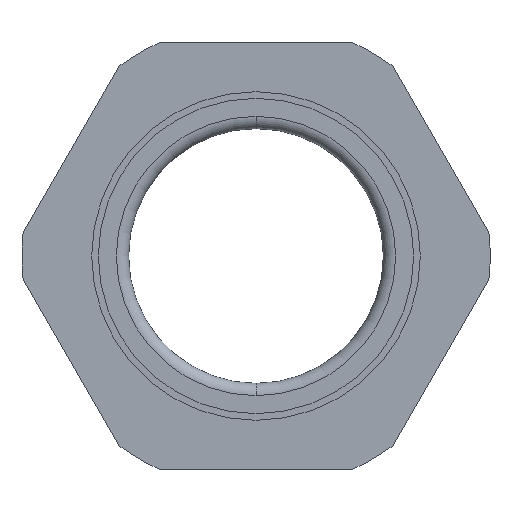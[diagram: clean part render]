
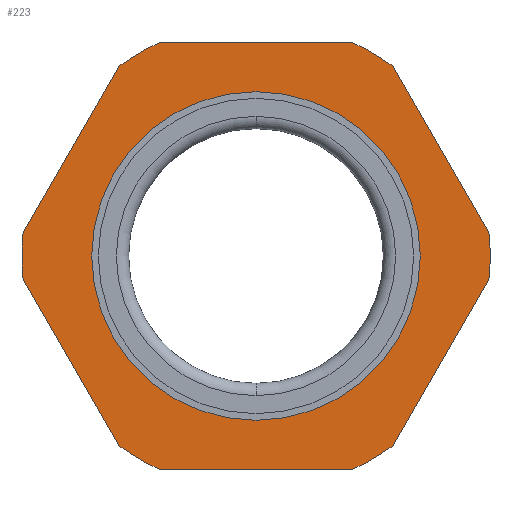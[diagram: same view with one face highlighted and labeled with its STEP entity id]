
A CAD part, front view. The second image highlights one B-rep face of the part: STEP entity #223.
In plain terms, the highlighted planar face has unit normal (0, -1, 0).
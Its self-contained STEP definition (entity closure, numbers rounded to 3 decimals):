
#35 = CIRCLE ( 'NONE', #2628, 28.5 ) ;
#63 = DIRECTION ( 'NONE',  ( 0.5, 0., -0.866 ) ) ;
#72 = EDGE_CURVE ( 'NONE', #3293, #3659, #194, .T. ) ;
#141 = PLANE ( 'NONE',  #215 ) ;
#153 = CARTESIAN_POINT ( 'NONE',  ( -28.353, 15., 2.891 ) ) ;
#194 = LINE ( 'NONE', #785, #3707 ) ;
#210 = DIRECTION ( 'NONE',  ( -0.5, 0., 0.866 ) ) ;
#215 = AXIS2_PLACEMENT_3D ( 'NONE', #3914, #1544, #3882 ) ;
#223 = ADVANCED_FACE ( 'NONE', ( #1267, #3866 ), #141, .T. ) ;
#260 = AXIS2_PLACEMENT_3D ( 'NONE', #943, #3340, #1296 ) ;
#312 = DIRECTION ( 'NONE',  ( 0.5, 0., 0.866 ) ) ;
#347 = EDGE_CURVE ( 'NONE', #1852, #727, #3446, .T. ) ;
#348 = VECTOR ( 'NONE', #210, 1000. ) ;
#396 = CARTESIAN_POINT ( 'NONE',  ( -27.517, 15., -4.34 ) ) ;
#409 = DIRECTION ( 'NONE',  ( 0., 1., 0. ) ) ;
#444 = ORIENTED_EDGE ( 'NONE', *, *, #3393, .F. ) ;
#486 = CIRCLE ( 'NONE', #982, 20. ) ;
#522 = EDGE_CURVE ( 'NONE', #592, #2680, #3101, .T. ) ;
#562 = EDGE_CURVE ( 'NONE', #727, #1852, #486, .T. ) ;
#592 = VERTEX_POINT ( 'NONE', #2799 ) ;
#660 = CARTESIAN_POINT ( 'NONE',  ( 0., 15., 0. ) ) ;
#666 = EDGE_CURVE ( 'NONE', #1617, #3050, #1679, .T. ) ;
#722 = ORIENTED_EDGE ( 'NONE', *, *, #4191, .F. ) ;
#727 = VERTEX_POINT ( 'NONE', #4096 ) ;
#740 = VERTEX_POINT ( 'NONE', #2106 ) ;
#785 = CARTESIAN_POINT ( 'NONE',  ( -20., 15., -26. ) ) ;
#801 = CIRCLE ( 'NONE', #3053, 28.5 ) ;
#892 = CARTESIAN_POINT ( 'NONE',  ( 16.68, 15., 23.109 ) ) ;
#917 = ORIENTED_EDGE ( 'NONE', *, *, #562, .T. ) ;
#943 = CARTESIAN_POINT ( 'NONE',  ( 0., 15., 0. ) ) ;
#944 = CARTESIAN_POINT ( 'NONE',  ( 0., 15., 0. ) ) ;
#982 = AXIS2_PLACEMENT_3D ( 'NONE', #1824, #409, #1044 ) ;
#1044 = DIRECTION ( 'NONE',  ( 0., 0., 1. ) ) ;
#1064 = DIRECTION ( 'NONE',  ( 0., 1., 0. ) ) ;
#1093 = CARTESIAN_POINT ( 'NONE',  ( 11.673, 15., -26. ) ) ;
#1133 = VERTEX_POINT ( 'NONE', #1219 ) ;
#1167 = CARTESIAN_POINT ( 'NONE',  ( -20., 15., 26. ) ) ;
#1217 = AXIS2_PLACEMENT_3D ( 'NONE', #1902, #4267, #2252 ) ;
#1219 = CARTESIAN_POINT ( 'NONE',  ( 28.353, 15., 2.891 ) ) ;
#1267 = FACE_BOUND ( 'NONE', #1321, .T. ) ;
#1296 = DIRECTION ( 'NONE',  ( 0., 0., 1. ) ) ;
#1299 = DIRECTION ( 'NONE',  ( 0., 0., 1. ) ) ;
#1308 = CARTESIAN_POINT ( 'NONE',  ( 0., 15., 0. ) ) ;
#1321 = EDGE_LOOP ( 'NONE', ( #917, #1722 ) ) ;
#1363 = VECTOR ( 'NONE', #63, 1000. ) ;
#1386 = VERTEX_POINT ( 'NONE', #4279 ) ;
#1406 = VECTOR ( 'NONE', #312, 1000. ) ;
#1443 = ORIENTED_EDGE ( 'NONE', *, *, #4283, .F. ) ;
#1457 = VECTOR ( 'NONE', #4224, 1000. ) ;
#1544 = DIRECTION ( 'NONE',  ( 0., -1., 0. ) ) ;
#1560 = LINE ( 'NONE', #3887, #1457 ) ;
#1617 = VERTEX_POINT ( 'NONE', #1811 ) ;
#1658 = DIRECTION ( 'NONE',  ( 0., 0., 1. ) ) ;
#1679 = CIRCLE ( 'NONE', #4177, 28.5 ) ;
#1722 = ORIENTED_EDGE ( 'NONE', *, *, #347, .T. ) ;
#1732 = ORIENTED_EDGE ( 'NONE', *, *, #2940, .T. ) ;
#1780 = DIRECTION ( 'NONE',  ( 0., 0., 1. ) ) ;
#1811 = CARTESIAN_POINT ( 'NONE',  ( -28.353, 15., -2.891 ) ) ;
#1824 = CARTESIAN_POINT ( 'NONE',  ( 0., 15., 0. ) ) ;
#1852 = VERTEX_POINT ( 'NONE', #3458 ) ;
#1902 = CARTESIAN_POINT ( 'NONE',  ( 0., 15., 0. ) ) ;
#1917 = CARTESIAN_POINT ( 'NONE',  ( 17.517, 15., 21.66 ) ) ;
#1952 = CARTESIAN_POINT ( 'NONE',  ( -11.673, 15., 26. ) ) ;
#2020 = EDGE_CURVE ( 'NONE', #1133, #3144, #2060, .T. ) ;
#2060 = LINE ( 'NONE', #1917, #348 ) ;
#2106 = CARTESIAN_POINT ( 'NONE',  ( 16.68, 15., -23.109 ) ) ;
#2146 = CIRCLE ( 'NONE', #1217, 28.5 ) ;
#2157 = EDGE_CURVE ( 'NONE', #740, #3659, #35, .T. ) ;
#2161 = ORIENTED_EDGE ( 'NONE', *, *, #4340, .T. ) ;
#2169 = CARTESIAN_POINT ( 'NONE',  ( 28.353, 15., -2.891 ) ) ;
#2239 = EDGE_LOOP ( 'NONE', ( #444, #2681, #4197, #2161, #1443, #3308, #722, #4047, #2352, #2339, #4141, #1732 ) ) ;
#2252 = DIRECTION ( 'NONE',  ( 0., 0., 1. ) ) ;
#2322 = LINE ( 'NONE', #4048, #1406 ) ;
#2339 = ORIENTED_EDGE ( 'NONE', *, *, #4140, .T. ) ;
#2352 = ORIENTED_EDGE ( 'NONE', *, *, #522, .F. ) ;
#2431 = DIRECTION ( 'NONE',  ( 0., 0., 1. ) ) ;
#2486 = LINE ( 'NONE', #1167, #3252 ) ;
#2628 = AXIS2_PLACEMENT_3D ( 'NONE', #1308, #3677, #1658 ) ;
#2680 = VERTEX_POINT ( 'NONE', #1952 ) ;
#2681 = ORIENTED_EDGE ( 'NONE', *, *, #72, .T. ) ;
#2799 = CARTESIAN_POINT ( 'NONE',  ( -16.68, 15., 23.109 ) ) ;
#2832 = CARTESIAN_POINT ( 'NONE',  ( 11.673, 15., 26. ) ) ;
#2936 = DIRECTION ( 'NONE',  ( 0., 0., 1. ) ) ;
#2940 = EDGE_CURVE ( 'NONE', #1617, #1386, #4068, .T. ) ;
#2987 = DIRECTION ( 'NONE',  ( 1., 0., 0. ) ) ;
#3037 = CARTESIAN_POINT ( 'NONE',  ( -11.673, 15., -26. ) ) ;
#3050 = VERTEX_POINT ( 'NONE', #153 ) ;
#3053 = AXIS2_PLACEMENT_3D ( 'NONE', #944, #3343, #1299 ) ;
#3101 = CIRCLE ( 'NONE', #4043, 28.5 ) ;
#3144 = VERTEX_POINT ( 'NONE', #892 ) ;
#3177 = AXIS2_PLACEMENT_3D ( 'NONE', #3284, #4286, #2936 ) ;
#3252 = VECTOR ( 'NONE', #3545, 1000. ) ;
#3284 = CARTESIAN_POINT ( 'NONE',  ( 0., 15., 0. ) ) ;
#3293 = VERTEX_POINT ( 'NONE', #3037 ) ;
#3308 = ORIENTED_EDGE ( 'NONE', *, *, #2020, .T. ) ;
#3340 = DIRECTION ( 'NONE',  ( 0., 1., 0. ) ) ;
#3343 = DIRECTION ( 'NONE',  ( 0., 1., 0. ) ) ;
#3393 = EDGE_CURVE ( 'NONE', #3293, #1386, #4368, .T. ) ;
#3446 = CIRCLE ( 'NONE', #3177, 20. ) ;
#3458 = CARTESIAN_POINT ( 'NONE',  ( 0., 15., -20. ) ) ;
#3545 = DIRECTION ( 'NONE',  ( -1., 0., 0. ) ) ;
#3659 = VERTEX_POINT ( 'NONE', #1093 ) ;
#3677 = DIRECTION ( 'NONE',  ( 0., 1., 0. ) ) ;
#3699 = VERTEX_POINT ( 'NONE', #2832 ) ;
#3707 = VECTOR ( 'NONE', #2987, 1000. ) ;
#3729 = VERTEX_POINT ( 'NONE', #2169 ) ;
#3780 = CARTESIAN_POINT ( 'NONE',  ( 0., 15., 0. ) ) ;
#3866 = FACE_OUTER_BOUND ( 'NONE', #2239, .T. ) ;
#3882 = DIRECTION ( 'NONE',  ( 0., 0., -1. ) ) ;
#3887 = CARTESIAN_POINT ( 'NONE',  ( -27.517, 15., 4.34 ) ) ;
#3914 = CARTESIAN_POINT ( 'NONE',  ( -20., 15., 0. ) ) ;
#4043 = AXIS2_PLACEMENT_3D ( 'NONE', #660, #4062, #2431 ) ;
#4047 = ORIENTED_EDGE ( 'NONE', *, *, #4131, .T. ) ;
#4048 = CARTESIAN_POINT ( 'NONE',  ( 17.517, 15., -21.66 ) ) ;
#4062 = DIRECTION ( 'NONE',  ( 0., 1., 0. ) ) ;
#4068 = LINE ( 'NONE', #396, #1363 ) ;
#4096 = CARTESIAN_POINT ( 'NONE',  ( 0., 15., 20. ) ) ;
#4131 = EDGE_CURVE ( 'NONE', #3699, #2680, #2486, .T. ) ;
#4140 = EDGE_CURVE ( 'NONE', #592, #3050, #1560, .T. ) ;
#4141 = ORIENTED_EDGE ( 'NONE', *, *, #666, .F. ) ;
#4177 = AXIS2_PLACEMENT_3D ( 'NONE', #3780, #1064, #1780 ) ;
#4191 = EDGE_CURVE ( 'NONE', #3699, #3144, #2146, .T. ) ;
#4197 = ORIENTED_EDGE ( 'NONE', *, *, #2157, .F. ) ;
#4224 = DIRECTION ( 'NONE',  ( -0.5, 0., -0.866 ) ) ;
#4267 = DIRECTION ( 'NONE',  ( 0., 1., 0. ) ) ;
#4279 = CARTESIAN_POINT ( 'NONE',  ( -16.68, 15., -23.109 ) ) ;
#4283 = EDGE_CURVE ( 'NONE', #1133, #3729, #801, .T. ) ;
#4286 = DIRECTION ( 'NONE',  ( 0., 1., 0. ) ) ;
#4340 = EDGE_CURVE ( 'NONE', #740, #3729, #2322, .T. ) ;
#4368 = CIRCLE ( 'NONE', #260, 28.5 ) ;
